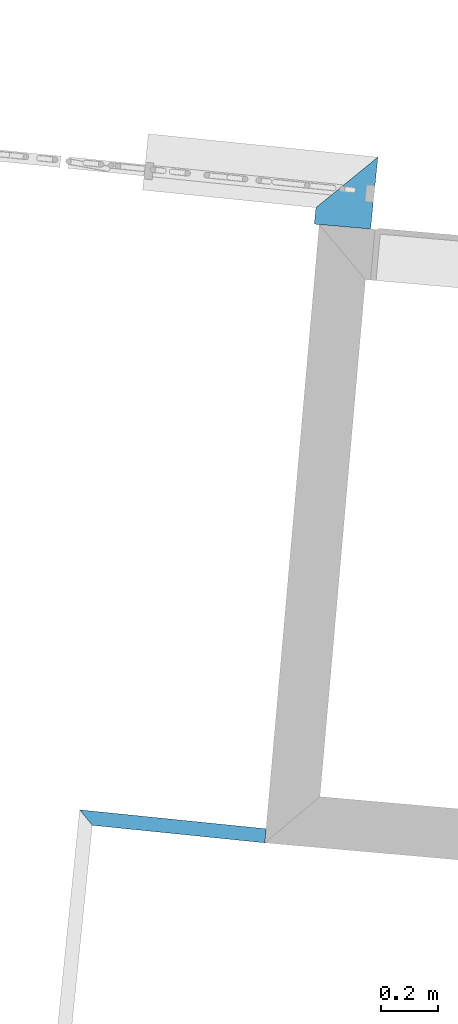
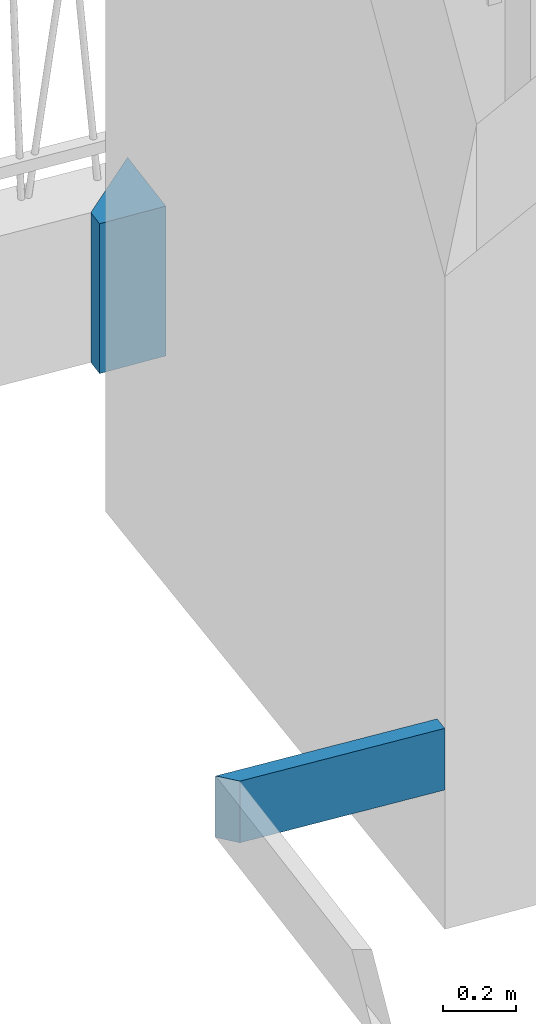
# One storey, part 87 of 171: 2 walls.
"""IFC2X3 building model written with IfcOpenShell, lengths in millimetres."""

from ifc_helpers import new_model, entity, si_unit, converted_unit, derived_unit, money_unit, direction, frame, origin_with_axes, place, context, subcontext, project, spatial, polyline, outline, extrude, material, layer, layer_set, layer_usage, type_object, element, save


model = new_model("IFC2X3")

# Units and contexts
model_context = context("Model", 3, precision=0.01, world=origin_with_axes(), true_north=direction((0.0, 1.0)))
body_context = subcontext(model_context, "Body", "Model", "MODEL_VIEW")
ifc_project = project(units=[si_unit("LENGTHUNIT", "METRE", prefix="MILLI"), si_unit("AREAUNIT", "SQUARE_METRE"), si_unit("VOLUMEUNIT", "CUBIC_METRE"), converted_unit("PLANEANGLEUNIT", "DEGREE", entity("IfcPlaneAngleMeasure", 0.0174532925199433), si_unit("PLANEANGLEUNIT", "RADIAN"), dimensions=[0, 0, 0, 0, 0, 0, 0]), money_unit("USD"), converted_unit("TIMEUNIT", "Year", entity("IfcTimeMeasure", 31557600.0), si_unit("TIMEUNIT", "SECOND"), dimensions=[0, 0, 1, 0, 0, 0, 0]), si_unit("MASSUNIT", "GRAM", prefix="KILO"), si_unit("THERMODYNAMICTEMPERATUREUNIT", "DEGREE_CELSIUS"), si_unit("LUMINOUSINTENSITYUNIT", "LUMEN"), si_unit("ENERGYUNIT", "JOULE", prefix="MEGA"), derived_unit("THERMALCONDUCTANCEUNIT", [(si_unit("POWERUNIT", "WATT"), 1), (si_unit("LENGTHUNIT", "METRE"), -1), (si_unit("THERMODYNAMICTEMPERATUREUNIT", "KELVIN"), -1)]), derived_unit("SPECIFICHEATCAPACITYUNIT", [(si_unit("ENERGYUNIT", "JOULE"), 1), (si_unit("MASSUNIT", "GRAM", prefix="KILO"), -1), (si_unit("THERMODYNAMICTEMPERATUREUNIT", "KELVIN"), -1)]), derived_unit("MASSDENSITYUNIT", [(si_unit("MASSUNIT", "GRAM", prefix="KILO"), 1), (si_unit("VOLUMEUNIT", "CUBIC_METRE"), -1)])], contexts=[model_context])

# Site, building, storey
site_placement = place(None, origin_with_axes())
site = spatial("IfcSite", under=ifc_project, at=site_placement, Name="Site", CompositionType="ELEMENT")
building_placement = place(site_placement, origin_with_axes())
building = spatial("IfcBuilding", under=site, at=building_placement, Name="Bâtiment", CompositionType="ELEMENT")
storey_placement = place(building_placement, frame((0.0, 0.0, 3000.0), z_axis=(0.0, 0.0, 1.0), x_axis=(1.0, 0.0, 0.0)))
storey = spatial("IfcBuildingStorey", under=building, at=storey_placement, Name="rdc", CompositionType="ELEMENT", Elevation=3000.0)

# Walls
ifc_material_1 = material(Name="Hachure solide 268963992")
ifc_layer_1 = layer(ifc_material_1, 50.0, ventilated="UNKNOWN")
ifc_layer_set_1 = layer_set([ifc_layer_1], Name="Cloison 50")
ifc_layer_usage_1 = layer_usage(ifc_layer_set_1, "AXIS2", "NEGATIVE", 50.0)
wall_type_1 = type_object("IfcWallType", Name="Cloison 50 50", PredefinedType="NOTDEFINED")
wall_1_placement = place(storey_placement, frame((2250787.870862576, -609731.4982902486, -399.9999999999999), z_axis=(0.0, 0.0, 1.0), x_axis=(-0.9948759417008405, 0.1011032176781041, 0.0)))
element("IfcWallStandardCase", 1, at=wall_1_placement, inside=storey, type_object=wall_type_1, material=ifc_layer_usage_1, Name="Mur-154", context=body_context, shape_type="SweptSolid", body=[
    extrude(outline(polyline([(0.0, 0.0), (663.9745130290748, 0.0), (613.9745137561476, 50.00000000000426), (0.0, 50.00000000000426), (0.0, 0.0)])), origin_with_axes(), (0.0, 0.0, 1.0), 205.7833593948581),
])
ifc_material_2 = material(Name="Empty Fill 292498448")
ifc_layer_2 = layer(ifc_material_2, 200.0, ventilated="UNKNOWN")
ifc_layer_set_2 = layer_set([ifc_layer_2], Name="acrotère 20")
ifc_layer_usage_2 = layer_usage(ifc_layer_set_2, "AXIS2", "NEGATIVE", 200.0)
wall_type_2 = type_object("IfcWallType", Name="acrotère 20 200", PredefinedType="NOTDEFINED")
wall_2_placement = place(storey_placement, frame((2251157.08200552, -607608.5266587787, -400.0000000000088), z_axis=(0.0, 0.0, 1.0), x_axis=(0.101103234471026, 0.9948759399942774, 0.0)))
element("IfcWallStandardCase", 2, at=wall_2_placement, inside=storey, type_object=wall_type_2, material=ifc_layer_usage_2, Name="Mur-153", context=body_context, shape_type="SweptSolid", body=[
    extrude(outline(polyline([(0.0, 0.0), (255.8224120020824, -1.13686837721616e-10), (55.82240951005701, 199.9999999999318), (-2.707381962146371, 199.9999999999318), (0.0, 0.0)])), origin_with_axes(), (0.0, 0.0, 1.0), 500.0000000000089),
])

save(model, "model.ifc")
